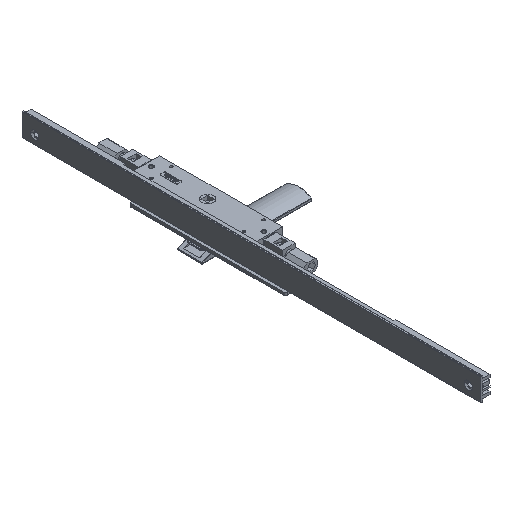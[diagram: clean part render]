
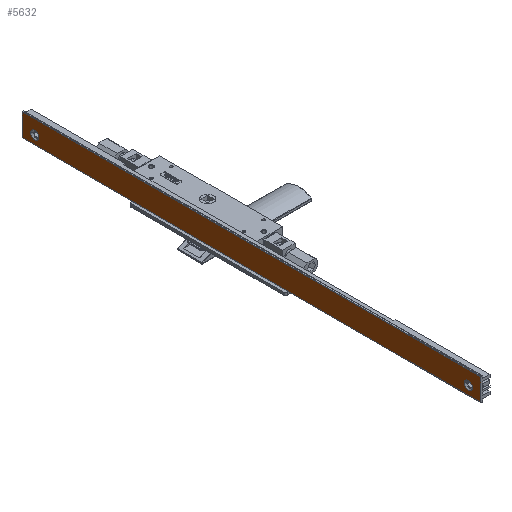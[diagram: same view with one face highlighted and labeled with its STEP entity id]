
A CAD part, isometric view. The second image highlights one B-rep face of the part: STEP entity #5632.
In plain terms, the highlighted planar face has unit normal (-1, 0, 0) as drawn and (0, 1, 0) by its records, which use the part's own axes.
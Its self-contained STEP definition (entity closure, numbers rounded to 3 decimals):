
#434 = CARTESIAN_POINT ( 'NONE',  ( -4.4, 12.4, 544. ) ) ;
#466 = DIRECTION ( 'NONE',  ( 0., 1., 0. ) ) ;
#555 = EDGE_CURVE ( 'NONE', #9328, #7887, #6346, .T. ) ;
#857 = CIRCLE ( 'NONE', #3347, 4.89 ) ;
#1038 = ORIENTED_EDGE ( 'NONE', *, *, #2189, .F. ) ;
#1054 = EDGE_LOOP ( 'NONE', ( #8252, #1880, #10980, #4619 ) ) ;
#1319 = CIRCLE ( 'NONE', #6314, 4.89 ) ;
#1880 = ORIENTED_EDGE ( 'NONE', *, *, #5928, .T. ) ;
#1884 = CARTESIAN_POINT ( 'NONE',  ( 22., 12.4, 544. ) ) ;
#2189 = EDGE_CURVE ( 'NONE', #7887, #9328, #18838, .T. ) ;
#2491 = PLANE ( 'NONE',  #2680 ) ;
#2537 = LINE ( 'NONE', #11159, #12031 ) ;
#2680 = AXIS2_PLACEMENT_3D ( 'NONE', #18692, #5150, #17234 ) ;
#2916 = VERTEX_POINT ( 'NONE', #1884 ) ;
#3089 = DIRECTION ( 'NONE',  ( 0., 1., 0. ) ) ;
#3127 = DIRECTION ( 'NONE',  ( 0., 1., 0. ) ) ;
#3347 = AXIS2_PLACEMENT_3D ( 'NONE', #8874, #3089, #9061 ) ;
#3433 = CARTESIAN_POINT ( 'NONE',  ( 11.8, 12.4, 524.111 ) ) ;
#3745 = VERTEX_POINT ( 'NONE', #5519 ) ;
#4602 = VECTOR ( 'NONE', #18632, 1000. ) ;
#4609 = DIRECTION ( 'NONE',  ( -1., 0., 0. ) ) ;
#4619 = ORIENTED_EDGE ( 'NONE', *, *, #5043, .F. ) ;
#4753 = DIRECTION ( 'NONE',  ( 0., 0., 1. ) ) ;
#4817 = CARTESIAN_POINT ( 'NONE',  ( 20.8, 12.4, 544. ) ) ;
#4908 = DIRECTION ( 'NONE',  ( 0., 0., 1. ) ) ;
#4976 = CARTESIAN_POINT ( 'NONE',  ( 11.8, 12.4, 529. ) ) ;
#5026 = ORIENTED_EDGE ( 'NONE', *, *, #555, .F. ) ;
#5043 = EDGE_CURVE ( 'NONE', #18604, #2916, #2537, .T. ) ;
#5150 = DIRECTION ( 'NONE',  ( 0., -1., 0. ) ) ;
#5157 = DIRECTION ( 'NONE',  ( 0., 0., 1. ) ) ;
#5391 = DIRECTION ( 'NONE',  ( 0., 1., 0. ) ) ;
#5519 = CARTESIAN_POINT ( 'NONE',  ( -4.4, 12.4, 0. ) ) ;
#5561 = CARTESIAN_POINT ( 'NONE',  ( 11.8, 12.4, 19.89 ) ) ;
#5632 = ADVANCED_FACE ( 'NONE', ( #15682, #12576, #6915 ), #2491, .F. ) ;
#5658 = LINE ( 'NONE', #18816, #4602 ) ;
#5772 = AXIS2_PLACEMENT_3D ( 'NONE', #4976, #466, #12200 ) ;
#5928 = EDGE_CURVE ( 'NONE', #3745, #14611, #10528, .T. ) ;
#6314 = AXIS2_PLACEMENT_3D ( 'NONE', #9101, #3127, #4908 ) ;
#6346 = CIRCLE ( 'NONE', #18791, 4.889 ) ;
#6785 = VECTOR ( 'NONE', #4753, 1000. ) ;
#6915 = FACE_OUTER_BOUND ( 'NONE', #1054, .T. ) ;
#7002 = EDGE_LOOP ( 'NONE', ( #17175, #15065 ) ) ;
#7887 = VERTEX_POINT ( 'NONE', #17085 ) ;
#8252 = ORIENTED_EDGE ( 'NONE', *, *, #16947, .T. ) ;
#8874 = CARTESIAN_POINT ( 'NONE',  ( 11.8, 12.4, 15. ) ) ;
#9061 = DIRECTION ( 'NONE',  ( 0., 0., 1. ) ) ;
#9101 = CARTESIAN_POINT ( 'NONE',  ( 11.8, 12.4, 15. ) ) ;
#9246 = CARTESIAN_POINT ( 'NONE',  ( 11.8, 12.4, 10.111 ) ) ;
#9299 = EDGE_CURVE ( 'NONE', #11451, #12942, #1319, .T. ) ;
#9328 = VERTEX_POINT ( 'NONE', #3433 ) ;
#10528 = LINE ( 'NONE', #15205, #6785 ) ;
#10980 = ORIENTED_EDGE ( 'NONE', *, *, #16351, .F. ) ;
#11159 = CARTESIAN_POINT ( 'NONE',  ( 22., 12.4, 0. ) ) ;
#11451 = VERTEX_POINT ( 'NONE', #5561 ) ;
#12031 = VECTOR ( 'NONE', #18923, 1000. ) ;
#12200 = DIRECTION ( 'NONE',  ( 0., 0., 1. ) ) ;
#12400 = VECTOR ( 'NONE', #4609, 1000. ) ;
#12576 = FACE_BOUND ( 'NONE', #14740, .T. ) ;
#12942 = VERTEX_POINT ( 'NONE', #9246 ) ;
#14611 = VERTEX_POINT ( 'NONE', #434 ) ;
#14740 = EDGE_LOOP ( 'NONE', ( #1038, #5026 ) ) ;
#15065 = ORIENTED_EDGE ( 'NONE', *, *, #18098, .F. ) ;
#15205 = CARTESIAN_POINT ( 'NONE',  ( -4.4, 12.4, 0. ) ) ;
#15682 = FACE_BOUND ( 'NONE', #7002, .T. ) ;
#16351 = EDGE_CURVE ( 'NONE', #2916, #14611, #17965, .T. ) ;
#16947 = EDGE_CURVE ( 'NONE', #18604, #3745, #5658, .T. ) ;
#17085 = CARTESIAN_POINT ( 'NONE',  ( 11.8, 12.4, 533.889 ) ) ;
#17175 = ORIENTED_EDGE ( 'NONE', *, *, #9299, .F. ) ;
#17234 = DIRECTION ( 'NONE',  ( 1., 0., 0. ) ) ;
#17965 = LINE ( 'NONE', #4817, #12400 ) ;
#18098 = EDGE_CURVE ( 'NONE', #12942, #11451, #857, .T. ) ;
#18357 = CARTESIAN_POINT ( 'NONE',  ( 22., 12.4, 0. ) ) ;
#18604 = VERTEX_POINT ( 'NONE', #18357 ) ;
#18632 = DIRECTION ( 'NONE',  ( -1., 0., 0. ) ) ;
#18692 = CARTESIAN_POINT ( 'NONE',  ( 20.8, 12.4, 544. ) ) ;
#18734 = CARTESIAN_POINT ( 'NONE',  ( 11.8, 12.4, 529. ) ) ;
#18791 = AXIS2_PLACEMENT_3D ( 'NONE', #18734, #5391, #5157 ) ;
#18816 = CARTESIAN_POINT ( 'NONE',  ( 20.8, 12.4, 0. ) ) ;
#18838 = CIRCLE ( 'NONE', #5772, 4.889 ) ;
#18923 = DIRECTION ( 'NONE',  ( 0., 0., 1. ) ) ;
